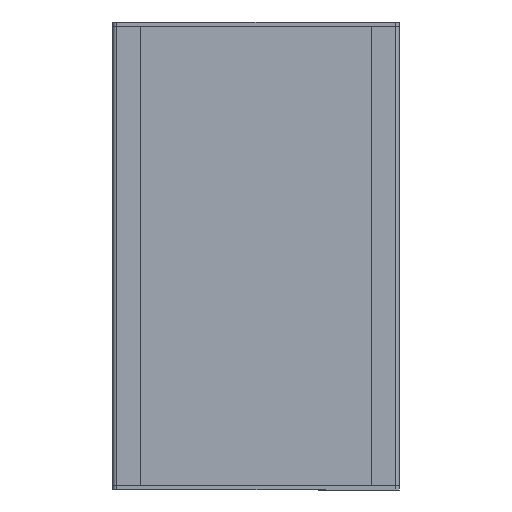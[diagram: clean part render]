
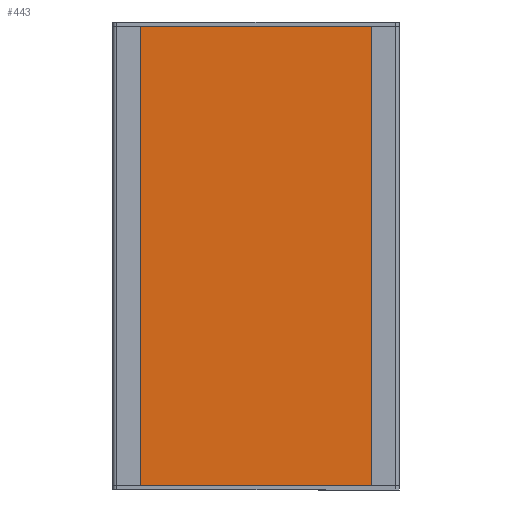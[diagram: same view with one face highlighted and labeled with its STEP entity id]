
A CAD part, left-side view. The second image highlights one B-rep face of the part: STEP entity #443.
In plain terms, the highlighted planar face has unit normal (-1, 0, 0) as drawn and (0, 1, 0) by its records, which use the part's own axes.
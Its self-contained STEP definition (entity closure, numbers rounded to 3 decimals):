
#43 = ORIENTED_EDGE ( 'NONE', *, *, #90, .F. ) ;
#90 = EDGE_CURVE ( 'NONE', #430, #1087, #285, .T. ) ;
#115 = VECTOR ( 'NONE', #3223, 1000. ) ;
#148 = CARTESIAN_POINT ( 'NONE',  ( -82.5, 1.5, -44.5 ) ) ;
#247 = CARTESIAN_POINT ( 'NONE',  ( 82.5, 1.5, 44.5 ) ) ;
#285 = LINE ( 'NONE', #2445, #3334 ) ;
#392 = EDGE_LOOP ( 'NONE', ( #43, #3249, #2932, #3575 ) ) ;
#430 = VERTEX_POINT ( 'NONE', #2363 ) ;
#443 = ADVANCED_FACE ( 'NONE', ( #3516 ), #2303, .F. ) ;
#709 = DIRECTION ( 'NONE',  ( 0., -1., 0. ) ) ;
#725 = CARTESIAN_POINT ( 'NONE',  ( 0., 1.5, 0. ) ) ;
#760 = CARTESIAN_POINT ( 'NONE',  ( -82.5, 1.5, 44.5 ) ) ;
#994 = DIRECTION ( 'NONE',  ( 0., 0., -1. ) ) ;
#1087 = VERTEX_POINT ( 'NONE', #148 ) ;
#1313 = LINE ( 'NONE', #247, #1407 ) ;
#1366 = CARTESIAN_POINT ( 'NONE',  ( 82.5, 1.5, -44.5 ) ) ;
#1407 = VECTOR ( 'NONE', #3582, 1000. ) ;
#1587 = CARTESIAN_POINT ( 'NONE',  ( 82.5, 1.5, 44.5 ) ) ;
#1615 = DIRECTION ( 'NONE',  ( 0., 0., -1. ) ) ;
#1786 = EDGE_CURVE ( 'NONE', #3601, #3122, #1313, .T. ) ;
#2272 = LINE ( 'NONE', #3301, #3642 ) ;
#2303 = PLANE ( 'NONE',  #3055 ) ;
#2363 = CARTESIAN_POINT ( 'NONE',  ( -82.5, 1.5, 44.5 ) ) ;
#2445 = CARTESIAN_POINT ( 'NONE',  ( -82.5, 1.5, 44.5 ) ) ;
#2523 = EDGE_CURVE ( 'NONE', #1087, #3122, #2272, .T. ) ;
#2873 = EDGE_CURVE ( 'NONE', #430, #3601, #2947, .T. ) ;
#2932 = ORIENTED_EDGE ( 'NONE', *, *, #1786, .T. ) ;
#2947 = LINE ( 'NONE', #760, #115 ) ;
#3055 = AXIS2_PLACEMENT_3D ( 'NONE', #725, #709, #994 ) ;
#3122 = VERTEX_POINT ( 'NONE', #1366 ) ;
#3223 = DIRECTION ( 'NONE',  ( 1., 0., 0. ) ) ;
#3249 = ORIENTED_EDGE ( 'NONE', *, *, #2873, .T. ) ;
#3301 = CARTESIAN_POINT ( 'NONE',  ( -82.5, 1.5, -44.5 ) ) ;
#3312 = DIRECTION ( 'NONE',  ( 1., 0., 0. ) ) ;
#3334 = VECTOR ( 'NONE', #1615, 1000. ) ;
#3516 = FACE_OUTER_BOUND ( 'NONE', #392, .T. ) ;
#3575 = ORIENTED_EDGE ( 'NONE', *, *, #2523, .F. ) ;
#3582 = DIRECTION ( 'NONE',  ( 0., 0., -1. ) ) ;
#3601 = VERTEX_POINT ( 'NONE', #1587 ) ;
#3642 = VECTOR ( 'NONE', #3312, 1000. ) ;
